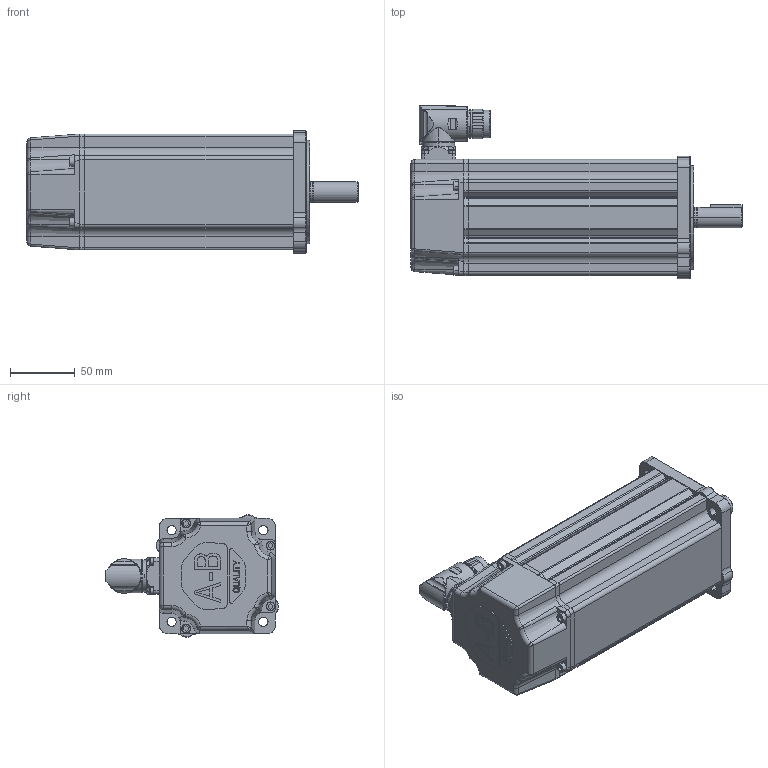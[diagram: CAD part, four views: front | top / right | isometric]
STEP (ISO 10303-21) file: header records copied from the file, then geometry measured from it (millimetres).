
FILE_DESCRIPTION (( 'STEP AP214' ), '1' );
FILE_NAME ('Rockwell Automation-$PARTNUMBER.STEP', '2014-07-07T18:29:53', ( 'Windows User' ), ( '' ), 'SwSTEP 2.0', 'SolidWorks 2014', '' );
FILE_SCHEMA (( 'AUTOMOTIVE_DESIGN' ));
Length unit declared in the file: inch
Products named in the file (4): Rockwell Automation-$PARTNUMBER_Rockwell Automation-VPF-x1003x-xJx4xx_Connector; Rockwell Automation-$PARTNUMBER_Rockwell Automation-VPF-x1003x-xJx4xx_VPF-100-Shaft_1003-SHAFT-KEYED-BRAKE; Rockwell Automation-$PARTNUMBER_Rockwell Automation-VPF-x1003x-xJx4xx_VPF-100-Body_1003-Brake; Rockwell Automation-$PARTNUMBER
Assembly tree (3 placements, depth 2):
  Rockwell Automation-$PARTNUMBER
    Rockwell Automation-$PARTNUMBER_Rockwell Automation-VPF-x1003x-xJx4xx_VPF-100-Body_1003-Brake
    Rockwell Automation-$PARTNUMBER_Rockwell Automation-VPF-x1003x-xJx4xx_VPF-100-Shaft_1003-SHAFT-KEYED-BRAKE
    Rockwell Automation-$PARTNUMBER_Rockwell Automation-VPF-x1003x-xJx4xx_Connector
Bounding box: 255.91 x 133.69 x 94.41 mm (x, y, z)
Volume: 713373.7 mm3; surface area: 192999.6 mm2
Topology: 8 solids, 8 shells, 1019 faces, 2509 edges, 1579 vertices
Faces by surface type: plane 438, cylinder 336, cone 93, bspline 92, torus 40, sphere 20
Entity records: 51387 total; most frequent: CARTESIAN_POINT 14012, ORIENTED_EDGE 4974, DIRECTION 4967, EDGE_CURVE 2487, AXIS2_PLACEMENT_3D 1799, VERTEX_POINT 1579, VECTOR 1369, LINE 1369
